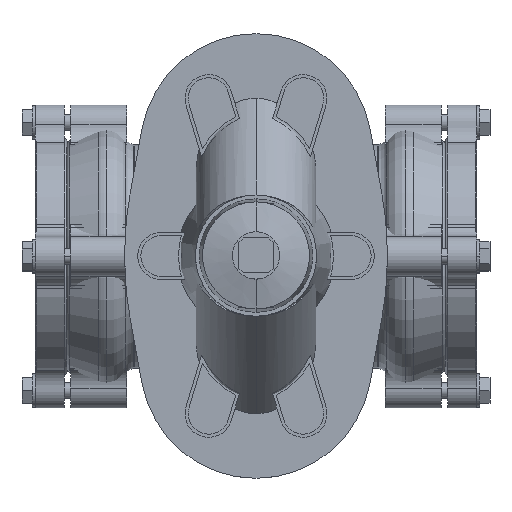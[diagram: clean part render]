
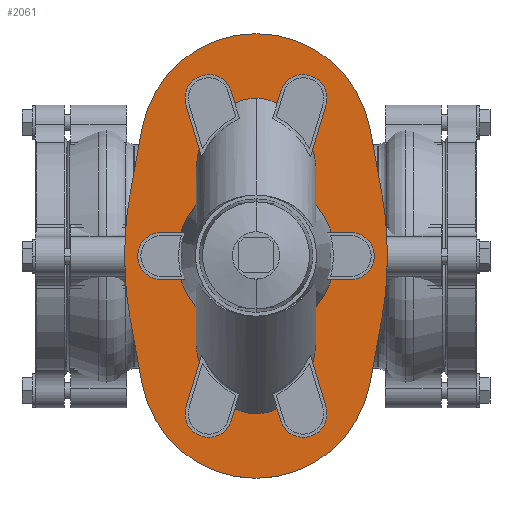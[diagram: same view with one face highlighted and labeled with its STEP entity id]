
A CAD part, top view. The second image highlights one B-rep face of the part: STEP entity #2061.
In plain terms, the highlighted planar face has unit normal (0, 0, 1).
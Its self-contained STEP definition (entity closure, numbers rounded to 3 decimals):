
#2061=ADVANCED_FACE('',(#4263),#4264,.T.);
#4263=FACE_OUTER_BOUND('',#7294,.T.);
#4264=PLANE('',#7295);
#7294=EDGE_LOOP('',(#10683,#10684,#10685,#10686,#10687,#10688,#10689,#10690,#10691,#10692,#10693,#10694,#10695,#10696));
#7295=AXIS2_PLACEMENT_3D('',#10697,#10698,#10699);
#10683=ORIENTED_EDGE('',*,*,#16941,.F.);
#10684=ORIENTED_EDGE('',*,*,#16942,.F.);
#10685=ORIENTED_EDGE('',*,*,#16943,.F.);
#10686=ORIENTED_EDGE('',*,*,#16944,.F.);
#10687=ORIENTED_EDGE('',*,*,#16945,.F.);
#10688=ORIENTED_EDGE('',*,*,#16946,.F.);
#10689=ORIENTED_EDGE('',*,*,#16947,.F.);
#10690=ORIENTED_EDGE('',*,*,#16948,.F.);
#10691=ORIENTED_EDGE('',*,*,#16949,.F.);
#10692=ORIENTED_EDGE('',*,*,#16950,.F.);
#10693=ORIENTED_EDGE('',*,*,#16889,.F.);
#10694=ORIENTED_EDGE('',*,*,#16951,.F.);
#10695=ORIENTED_EDGE('',*,*,#16757,.F.);
#10696=ORIENTED_EDGE('',*,*,#16952,.F.);
#10697=CARTESIAN_POINT('',(50.,0.,198.0));
#10698=DIRECTION('',(0.0,0.0,1.0));
#10699=DIRECTION('',(1.0,0.0,0.0));
#16757=EDGE_CURVE('',#19857,#19852,#19859,.T.);
#16889=EDGE_CURVE('',#20082,#20077,#20084,.T.);
#16941=EDGE_CURVE('',#20167,#20168,#20169,.T.);
#16942=EDGE_CURVE('',#20170,#20167,#20171,.T.);
#16943=EDGE_CURVE('',#20172,#20170,#20173,.T.);
#16944=EDGE_CURVE('',#20174,#20172,#20175,.T.);
#16945=EDGE_CURVE('',#20176,#20174,#20177,.T.);
#16946=EDGE_CURVE('',#20178,#20176,#20179,.T.);
#16947=EDGE_CURVE('',#20180,#20178,#20181,.T.);
#16948=EDGE_CURVE('',#20182,#20180,#20183,.T.);
#16949=EDGE_CURVE('',#20184,#20182,#20185,.T.);
#16950=EDGE_CURVE('',#20077,#20184,#20186,.T.);
#16951=EDGE_CURVE('',#19852,#20082,#20187,.T.);
#16952=EDGE_CURVE('',#20168,#19857,#20188,.T.);
#19852=VERTEX_POINT('',#23969);
#19857=VERTEX_POINT('',#23975);
#19859=CIRCLE('',#23978,222.594);
#20077=VERTEX_POINT('',#24251);
#20082=VERTEX_POINT('',#24257);
#20084=CIRCLE('',#24260,222.594);
#20167=VERTEX_POINT('',#24360);
#20168=VERTEX_POINT('',#24361);
#20169=CIRCLE('',#24362,73.49);
#20170=VERTEX_POINT('',#24363);
#20171=LINE('',#24364,#24365);
#20172=VERTEX_POINT('',#24366);
#20173=CIRCLE('',#24367,222.594);
#20174=VERTEX_POINT('',#24368);
#20175=CIRCLE('',#24369,222.594);
#20176=VERTEX_POINT('',#24370);
#20177=CIRCLE('',#24371,222.594);
#20178=VERTEX_POINT('',#24372);
#20179=CIRCLE('',#24373,222.594);
#20180=VERTEX_POINT('',#24374);
#20181=LINE('',#24375,#24376);
#20182=VERTEX_POINT('',#24377);
#20183=CIRCLE('',#24378,73.49);
#20184=VERTEX_POINT('',#24379);
#20185=LINE('',#24380,#24381);
#20186=CIRCLE('',#24382,222.594);
#20187=CIRCLE('',#24383,222.594);
#20188=LINE('',#24384,#24385);
#23969=CARTESIAN_POINT('',(-33.258,-0.593,198.0));
#23975=CARTESIAN_POINT('',(-29.622,-40.665,198.0));
#23978=AXIS2_PLACEMENT_3D('',#28389,#28390,#28391);
#24251=CARTESIAN_POINT('',(-33.258,0.593,198.0));
#24257=CARTESIAN_POINT('',(-33.258,0.001,198.0));
#24260=AXIS2_PLACEMENT_3D('',#28590,#28591,#28592);
#24360=CARTESIAN_POINT('',(122.289,-80.73,198.0));
#24361=CARTESIAN_POINT('',(-22.29,-80.73,198.0));
#24362=AXIS2_PLACEMENT_3D('',#28676,#28677,#28678);
#24363=CARTESIAN_POINT('',(129.621,-40.665,198.0));
#24364=CARTESIAN_POINT('',(122.289,-80.73,198.0));
#24365=VECTOR('',#28679,1.0);
#24366=CARTESIAN_POINT('',(133.258,-0.594,198.0));
#24367=AXIS2_PLACEMENT_3D('',#28680,#28681,#28682);
#24368=CARTESIAN_POINT('',(133.257,0.,198.0));
#24369=AXIS2_PLACEMENT_3D('',#28683,#28684,#28685);
#24370=CARTESIAN_POINT('',(133.258,0.594,198.0));
#24371=AXIS2_PLACEMENT_3D('',#28686,#28687,#28688);
#24372=CARTESIAN_POINT('',(129.621,40.665,198.0));
#24373=AXIS2_PLACEMENT_3D('',#28689,#28690,#28691);
#24374=CARTESIAN_POINT('',(122.289,80.73,198.0));
#24375=CARTESIAN_POINT('',(129.621,40.665,198.0));
#24376=VECTOR('',#28692,1.0);
#24377=CARTESIAN_POINT('',(-22.29,80.73,198.0));
#24378=AXIS2_PLACEMENT_3D('',#28693,#28694,#28695);
#24379=CARTESIAN_POINT('',(-29.622,40.665,198.0));
#24380=CARTESIAN_POINT('',(-22.29,80.73,198.0));
#24381=VECTOR('',#28696,1.0);
#24382=AXIS2_PLACEMENT_3D('',#28697,#28698,#28699);
#24383=AXIS2_PLACEMENT_3D('',#28700,#28701,#28702);
#24384=CARTESIAN_POINT('',(-29.622,-40.665,198.0));
#24385=VECTOR('',#28703,1.0);
#28389=CARTESIAN_POINT('',(189.336,-0.593,198.0));
#28390=DIRECTION('',(0.0,0.0,-1.0));
#28391=DIRECTION('',(1.0,0.0,0.0));
#28590=CARTESIAN_POINT('',(189.336,0.593,198.0));
#28591=DIRECTION('',(0.0,0.0,-1.0));
#28592=DIRECTION('',(1.0,0.0,0.0));
#28676=CARTESIAN_POINT('',(50.,-67.5,198.0));
#28677=DIRECTION('',(0.0,0.0,-1.0));
#28678=DIRECTION('',(1.0,0.0,0.0));
#28679=DIRECTION('',(-0.18,-0.984,-0.0));
#28680=CARTESIAN_POINT('',(-89.336,-0.594,198.0));
#28681=DIRECTION('',(0.0,0.0,-1.0));
#28682=DIRECTION('',(1.0,0.0,0.0));
#28683=CARTESIAN_POINT('',(-89.336,-0.594,198.0));
#28684=DIRECTION('',(0.0,0.0,-1.0));
#28685=DIRECTION('',(1.0,0.0,0.0));
#28686=CARTESIAN_POINT('',(-89.336,0.594,198.0));
#28687=DIRECTION('',(0.0,0.0,-1.0));
#28688=DIRECTION('',(1.0,0.0,0.0));
#28689=CARTESIAN_POINT('',(-89.336,0.594,198.0));
#28690=DIRECTION('',(0.0,0.0,-1.0));
#28691=DIRECTION('',(1.0,0.0,0.0));
#28692=DIRECTION('',(0.18,-0.984,0.0));
#28693=CARTESIAN_POINT('',(50.,67.5,198.0));
#28694=DIRECTION('',(0.0,0.0,-1.0));
#28695=DIRECTION('',(1.0,0.0,0.0));
#28696=DIRECTION('',(0.18,0.984,0.0));
#28697=CARTESIAN_POINT('',(189.336,0.593,198.0));
#28698=DIRECTION('',(0.0,0.0,-1.0));
#28699=DIRECTION('',(1.0,0.0,0.0));
#28700=CARTESIAN_POINT('',(189.336,-0.593,198.0));
#28701=DIRECTION('',(0.0,0.0,-1.0));
#28702=DIRECTION('',(1.0,0.0,0.0));
#28703=DIRECTION('',(-0.18,0.984,0.0));
